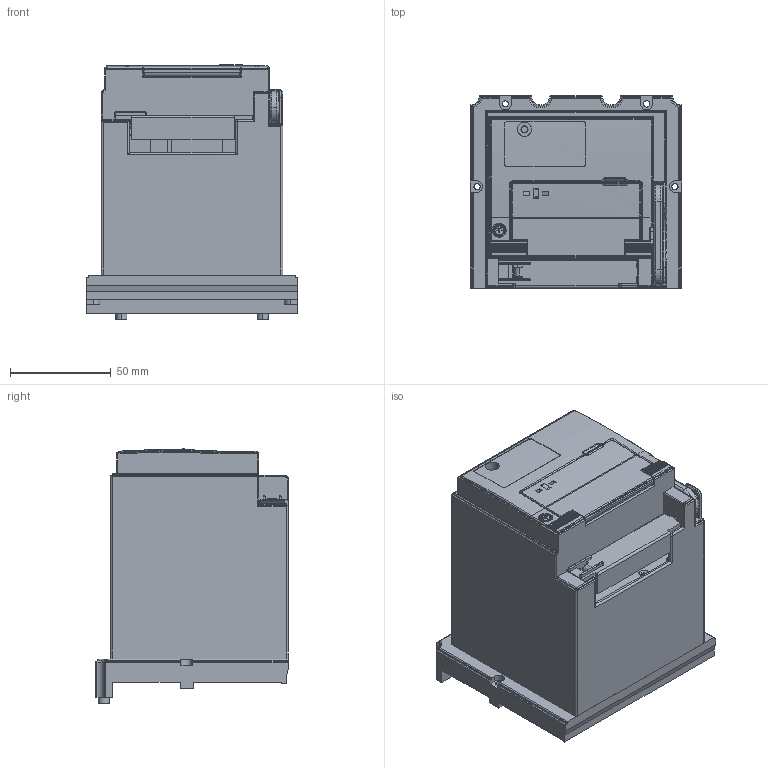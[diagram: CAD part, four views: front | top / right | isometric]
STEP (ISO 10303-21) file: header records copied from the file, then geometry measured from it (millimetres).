
FILE_DESCRIPTION (( 'STEP AP214' ), '1' );
FILE_NAME ('250??.STEP', '2025-11-24T07:31:22', ( '' ), ( '' ), 'SwSTEP 2.0', 'SolidWorks 2024', '' );
FILE_SCHEMA (( 'AUTOMOTIVE_DESIGN' ));
Length unit declared in the file: millimetre
Products named in the file (16): WL8_235-THM5-125.stp; THM5-200.stp; SY8_100_014.stp; SY8_260_000.stp; SY8_300_004.stp; WL8_024__0.stp; WL8_253_081_THM5-200.stp; SY5_253_002.stp; WL8_310_246_THM5-200.stp; WL8_261_158_THM5-200.stp; 250电操.stp; WL8_024_748_THM5-200.stp; WL8_300_068_THM5-000.stp; 2SY8_100_013.stp; 3WL8_261_161__049000.stp; 250电操
Assembly tree (16 placements, depth 3):
  250电操
    250电操.stp
      WL8_024_748_THM5-200.stp
      SY8_300_004.stp
      WL8_253_081_THM5-200.stp
      WL8_300_068_THM5-000.stp
      SY5_253_002.stp
      WL8_024__0.stp
      THM5-200.stp
      WL8_235-THM5-125.stp
      3WL8_261_161__049000.stp
      WL8_310_246_THM5-200.stp
      SY8_100_014.stp
      WL8_261_158_THM5-200.stp
      SY8_260_000.stp  x2
      2SY8_100_013.stp
Bounding box: 105 x 95.35 x 126.26 mm (x, y, z)
Volume: 185298.8 mm3; surface area: 194284 mm2
Topology: 15 solids, 15 shells, 2745 faces, 7322 edges, 4649 vertices
Faces by surface type: plane 1588, cylinder 740, bspline 214, torus 101, sphere 70, cone 32
Entity records: 99188 total; most frequent: CARTESIAN_POINT 31025, ORIENTED_EDGE 14492, DIRECTION 13374, EDGE_CURVE 7246, LINE 5072, VECTOR 5072, VERTEX_POINT 4637, AXIS2_PLACEMENT_3D 4151
